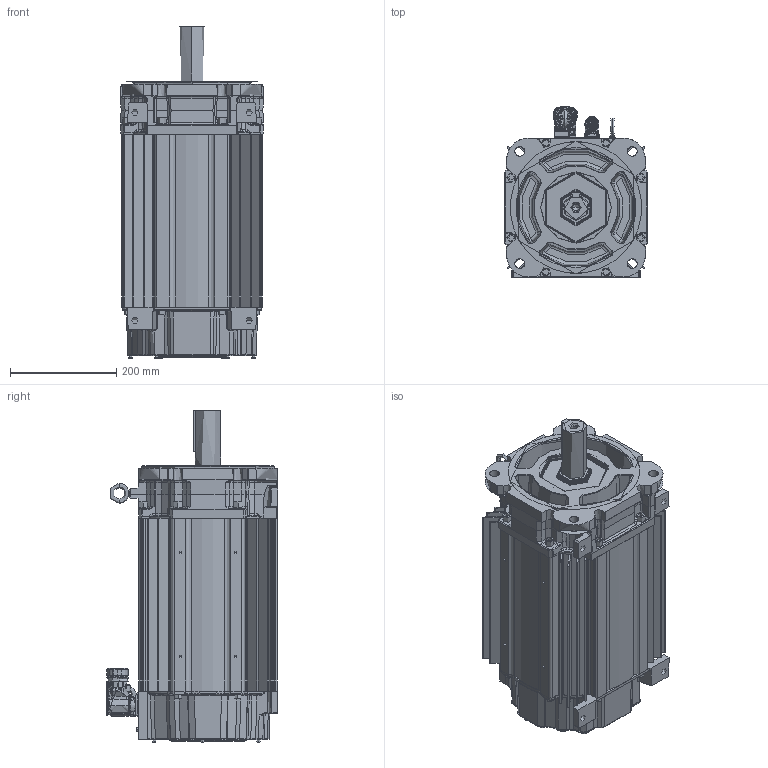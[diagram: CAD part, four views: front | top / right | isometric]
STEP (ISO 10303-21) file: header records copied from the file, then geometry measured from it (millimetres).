
FILE_DESCRIPTION((''),'2;1');
FILE_NAME('10005239736_ASM','2020-01-16T10:49:31',('VThimma'),('Rockwell Automation'),'CREO PARAMETRIC BY PTC INC, 2017380','CREO PARAMETRIC BY PTC INC, 2017380','');
FILE_SCHEMA(('CONFIG_CONTROL_DESIGN','SHAPE_APPEARANCE_LAYERS_GROUPS'));
Products named in the file (26): 10001441958; 10001404634_AF0; 10001404629_AF6; 10001404635_ASM; 10001585735; 10001442012_ASM; 10001439798; 10001440031_ASM; 10001405269_AF0; 10001405367_ASM; 10001586887; 0002-5004; 10001609981; 10001737030; 10000014325-2; 10000014331; 10000014332-460; 10000014330-460_ASM; 10000172464; PWR40CONN-BRK; PWR40BASE; 10000806125_ASM; 221404-Q12; 10001408124; 0011-2084; 10005239736_ASM
Assembly tree (51 placements, depth 4):
  10005239736_ASM
    10001442012_ASM
      10001441958
      10001404635_ASM
        10001404634_AF0
        10001404629_AF6
      10001585735  x8
    10001440031_ASM
      10001439798
    10001405367_ASM
      10001405269_AF0
    10001586887  x7
    0002-5004  x2
    10001609981
    10001737030
    10000014330-460_ASM
      10000014325-2
      10000014331
      10000014332-460
    10000172464  x4
    10000806125_ASM
      PWR40CONN-BRK
      PWR40BASE
    221404-Q12  x10
    10001408124
    0011-2084
Bounding box: 269.49 x 324.05 x 626.33 mm (x, y, z)
Topology: 0 solids, 62 shells, 7054 faces, 18345 edges, 11407 vertices
Faces by surface type: cylinder 2227, plane 1659, bspline 1506, torus 877, cone 579, sphere 163, extrusion 42, revolution 1
Entity records: 357491 total; most frequent: CARTESIAN_POINT 136707, ORIENTED_EDGE 30203, DIRECTION 25519, PRESENTATION_STYLE_ASSIGNMENT 20971, STYLED_ITEM 20971, CURVE_STYLE 15211, EDGE_CURVE 15169, AXIS2_PLACEMENT_3D 10350
